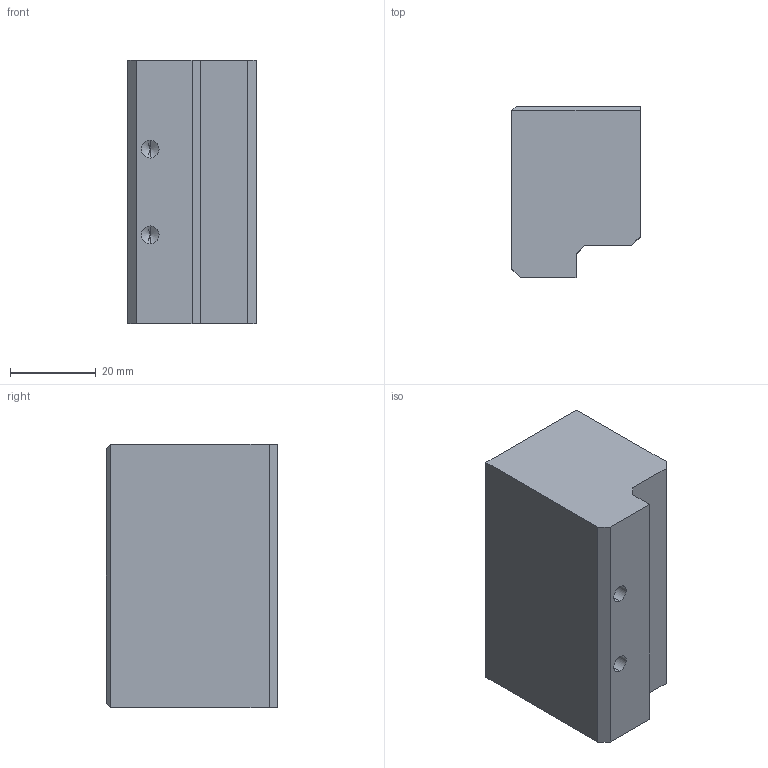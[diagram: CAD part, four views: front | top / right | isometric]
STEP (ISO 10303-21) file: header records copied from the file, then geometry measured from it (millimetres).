
FILE_DESCRIPTION (( 'STEP AP214' ), '1' );
FILE_NAME ('GZ28.04_V1源倛概隅弇釱.STEP', '2021-04-11T15:14:07', ( 'hp' ), ( '' ), 'SwSTEP 2.0', 'SolidWorks 2017', '' );
FILE_SCHEMA (( 'AUTOMOTIVE_DESIGN' ));
Length unit declared in the file: millimetre
Products named in the file (1): GZ28.04_V1源倛概隅弇釱
Bounding box: 30 x 40 x 61.5 mm (x, y, z)
Volume: 43200.3 mm3; surface area: 12513.4 mm2
Topology: 1 solids, 1 shells, 51 faces, 131 edges, 80 vertices
Faces by surface type: plane 43, cylinder 4, cone 4
Entity records: 1555 total; most frequent: CARTESIAN_POINT 259, ORIENTED_EDGE 254, DIRECTION 239, EDGE_CURVE 127, LINE 119, VECTOR 119, VERTEX_POINT 80, AXIS2_PLACEMENT_3D 60
